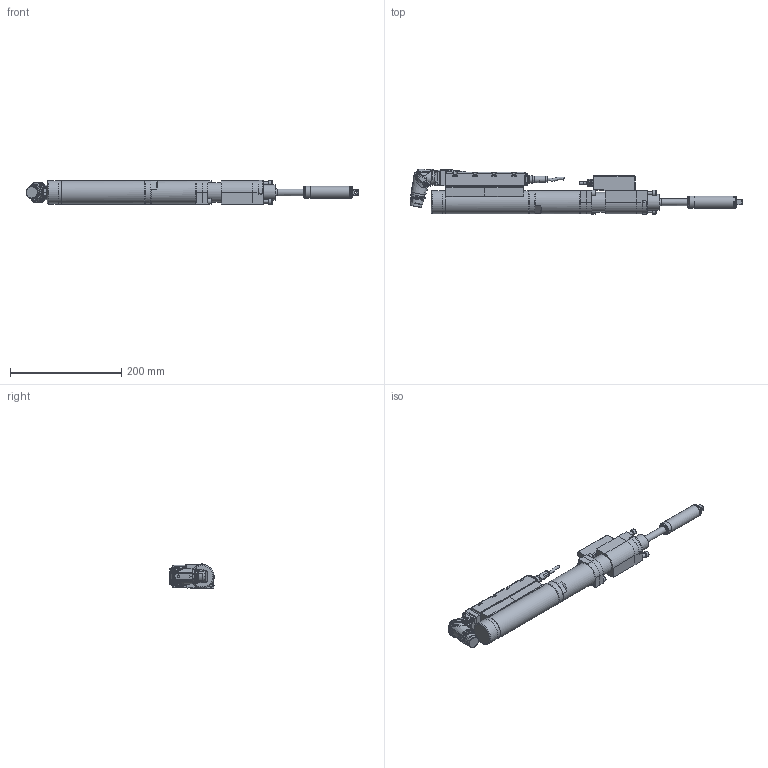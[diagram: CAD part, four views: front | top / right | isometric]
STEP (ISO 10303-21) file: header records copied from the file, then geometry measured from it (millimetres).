
FILE_DESCRIPTION (( 'STEP AP214' ), '1' );
FILE_NAME ('70082420_ESX103DRX40AZX150.STEP', '2016-11-14T08:47:42', ( 'admin' ), ( '' ), 'SwSTEP 2.0', 'SolidWorks 2014', '' );
FILE_SCHEMA (( 'AUTOMOTIVE_DESIGN' ));
Length unit declared in the file: millimetre
Products named in the file (11): 7002230_3; 70082370; 70082320; 70082300_ESX103_Standard_Winkel; 70082293_2; 70057493_Standard_winkel; 70057493_4; 70057493_3; 70057493_2; 70082300; 70082420_ESX103DRX40AZX150
Assembly tree (10 placements, depth 4):
  70082420_ESX103DRX40AZX150
    70082300_ESX103_Standard_Winkel
      70082300
      70057493_Standard_winkel
        70057493_2
        70057493_3
        70057493_4
      70082293_2
    70082320
    70082370
    7002230_3
Bounding box: 597.96 x 82.03 x 43.85 mm (x, y, z)
Volume: 930370.7 mm3; surface area: 139720.2 mm2
Topology: 12 solids, 15 shells, 2500 faces, 6552 edges, 4238 vertices
Faces by surface type: plane 1255, cylinder 657, bspline 264, cone 257, torus 62, sphere 5
Full cylindrical faces by diameter (mm): 0.5 x7, 0.57 x14, 2 x3, 2.5 x4, 3 x6, 3.5 x1, 4.2 x1, 4.7 x1, 4.9 x3, 5 x8, 5.5 x12, 6 x8, 6.5 x1, 8.459 x2, 8.5 x1, 8.8 x1, 10 x4, 11.08 x2, 11.2 x1, 11.43 x1, 12.1 x1, 12.3 x1, 12.5 x1, 14 x2, 14.5 x2, 16 x2, 17.4 x1, 18 x1, 20 x1, 20.2 x1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
Entity records: 89118 total; most frequent: CARTESIAN_POINT 29197, ORIENTED_EDGE 12338, DIRECTION 10909, EDGE_CURVE 6169, VERTEX_POINT 4123, AXIS2_PLACEMENT_3D 4006, EDGE_LOOP 2942, VECTOR 2897
